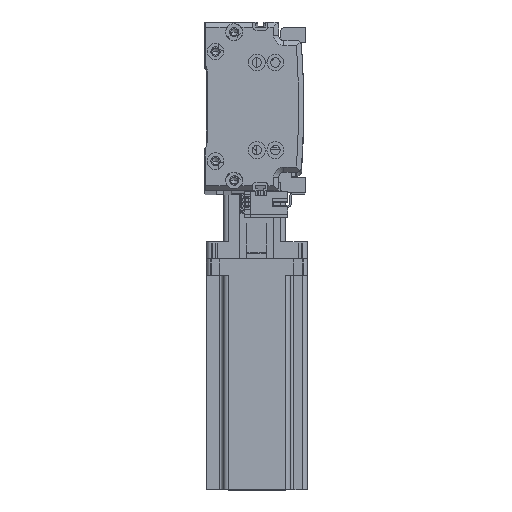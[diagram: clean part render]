
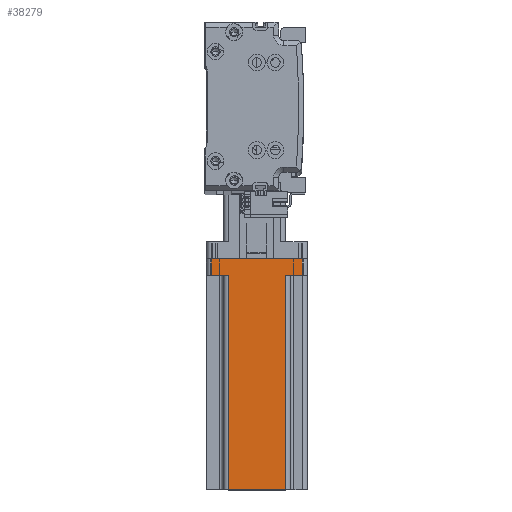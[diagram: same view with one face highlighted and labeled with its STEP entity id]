
A CAD part, top view. The second image highlights one B-rep face of the part: STEP entity #38279.
In plain terms, the highlighted planar face has unit normal (0, 0, 1) as drawn and (0, 1, 0) by its records, which use the part's own axes.
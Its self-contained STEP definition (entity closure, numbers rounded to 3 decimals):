
#210 = EDGE_CURVE ( 'NONE', #51070, #2837, #26592, .T. ) ;
#256 = CARTESIAN_POINT ( 'NONE',  ( -17., 30., 137. ) ) ;
#412 = VERTEX_POINT ( 'NONE', #51356 ) ;
#787 = CARTESIAN_POINT ( 'NONE',  ( 17., 30., 10. ) ) ;
#1731 = CARTESIAN_POINT ( 'NONE',  ( 17., 30., 137. ) ) ;
#2837 = VERTEX_POINT ( 'NONE', #256 ) ;
#3177 = EDGE_CURVE ( 'NONE', #412, #56565, #19951, .T. ) ;
#3346 = EDGE_CURVE ( 'NONE', #35146, #25162, #32206, .T. ) ;
#3386 = VECTOR ( 'NONE', #12505, 1000. ) ;
#4467 = VERTEX_POINT ( 'NONE', #8637 ) ;
#5097 = LINE ( 'NONE', #24850, #38583 ) ;
#6194 = DIRECTION ( 'NONE',  ( 0., 0., -1. ) ) ;
#8054 = DIRECTION ( 'NONE',  ( 0., 0., 1. ) ) ;
#8183 = CARTESIAN_POINT ( 'NONE',  ( -17., 30., 137. ) ) ;
#8637 = CARTESIAN_POINT ( 'NONE',  ( 17., 30., 137. ) ) ;
#8848 = DIRECTION ( 'NONE',  ( 0., -1., 0. ) ) ;
#10414 = DIRECTION ( 'NONE',  ( 0., 0., 1. ) ) ;
#10700 = ORIENTED_EDGE ( 'NONE', *, *, #34570, .T. ) ;
#11857 = DIRECTION ( 'NONE',  ( -1., 0., 0. ) ) ;
#12505 = DIRECTION ( 'NONE',  ( -1., 0., 0. ) ) ;
#12613 = AXIS2_PLACEMENT_3D ( 'NONE', #34955, #8848, #39375 ) ;
#13023 = PLANE ( 'NONE',  #12613 ) ;
#14151 = ORIENTED_EDGE ( 'NONE', *, *, #39667, .F. ) ;
#14801 = CARTESIAN_POINT ( 'NONE',  ( -27., 30., 137. ) ) ;
#17980 = FACE_OUTER_BOUND ( 'NONE', #49288, .T. ) ;
#19155 = EDGE_CURVE ( 'NONE', #56565, #51070, #48753, .T. ) ;
#19728 = ORIENTED_EDGE ( 'NONE', *, *, #3346, .F. ) ;
#19951 = LINE ( 'NONE', #14801, #28854 ) ;
#20556 = LINE ( 'NONE', #21305, #3386 ) ;
#21305 = CARTESIAN_POINT ( 'NONE',  ( 30., 30., 137. ) ) ;
#24850 = CARTESIAN_POINT ( 'NONE',  ( 30., 30., 0. ) ) ;
#25162 = VERTEX_POINT ( 'NONE', #787 ) ;
#25837 = CARTESIAN_POINT ( 'NONE',  ( 27., 30., 137. ) ) ;
#26592 = LINE ( 'NONE', #8183, #46988 ) ;
#26628 = VECTOR ( 'NONE', #52174, 1000. ) ;
#26849 = ORIENTED_EDGE ( 'NONE', *, *, #32746, .T. ) ;
#28204 = EDGE_CURVE ( 'NONE', #4467, #25162, #53676, .T. ) ;
#28854 = VECTOR ( 'NONE', #10414, 1000. ) ;
#31879 = VECTOR ( 'NONE', #6194, 1000. ) ;
#32206 = LINE ( 'NONE', #50732, #41101 ) ;
#32746 = EDGE_CURVE ( 'NONE', #37550, #412, #5097, .T. ) ;
#32777 = CARTESIAN_POINT ( 'NONE',  ( 27., 30., 0. ) ) ;
#33859 = ORIENTED_EDGE ( 'NONE', *, *, #3177, .T. ) ;
#34570 = EDGE_CURVE ( 'NONE', #35146, #37550, #38214, .T. ) ;
#34955 = CARTESIAN_POINT ( 'NONE',  ( 30., 30., 137. ) ) ;
#35146 = VERTEX_POINT ( 'NONE', #39143 ) ;
#36040 = ORIENTED_EDGE ( 'NONE', *, *, #28204, .T. ) ;
#36070 = ORIENTED_EDGE ( 'NONE', *, *, #19155, .T. ) ;
#37168 = VECTOR ( 'NONE', #53434, 1000. ) ;
#37550 = VERTEX_POINT ( 'NONE', #32777 ) ;
#38214 = LINE ( 'NONE', #25837, #26628 ) ;
#38279 = ADVANCED_FACE ( 'NONE', ( #17980 ), #13023, .F. ) ;
#38583 = VECTOR ( 'NONE', #11857, 1000. ) ;
#39143 = CARTESIAN_POINT ( 'NONE',  ( 27., 30., 10. ) ) ;
#39375 = DIRECTION ( 'NONE',  ( 1., 0., 0. ) ) ;
#39667 = EDGE_CURVE ( 'NONE', #4467, #2837, #20556, .T. ) ;
#41024 = CARTESIAN_POINT ( 'NONE',  ( -17., 30., 10. ) ) ;
#41101 = VECTOR ( 'NONE', #50962, 1000. ) ;
#43058 = CARTESIAN_POINT ( 'NONE',  ( -27., 30., 10. ) ) ;
#45314 = ORIENTED_EDGE ( 'NONE', *, *, #210, .T. ) ;
#46988 = VECTOR ( 'NONE', #8054, 1000. ) ;
#48753 = LINE ( 'NONE', #49040, #37168 ) ;
#49040 = CARTESIAN_POINT ( 'NONE',  ( -20., 30., 10. ) ) ;
#49288 = EDGE_LOOP ( 'NONE', ( #36070, #45314, #14151, #36040, #19728, #10700, #26849, #33859 ) ) ;
#50732 = CARTESIAN_POINT ( 'NONE',  ( 20., 30., 10. ) ) ;
#50962 = DIRECTION ( 'NONE',  ( -1., 0., 0. ) ) ;
#51070 = VERTEX_POINT ( 'NONE', #41024 ) ;
#51356 = CARTESIAN_POINT ( 'NONE',  ( -27., 30., 0. ) ) ;
#52174 = DIRECTION ( 'NONE',  ( 0., 0., -1. ) ) ;
#53434 = DIRECTION ( 'NONE',  ( 1., 0., 0. ) ) ;
#53676 = LINE ( 'NONE', #1731, #31879 ) ;
#56565 = VERTEX_POINT ( 'NONE', #43058 ) ;
